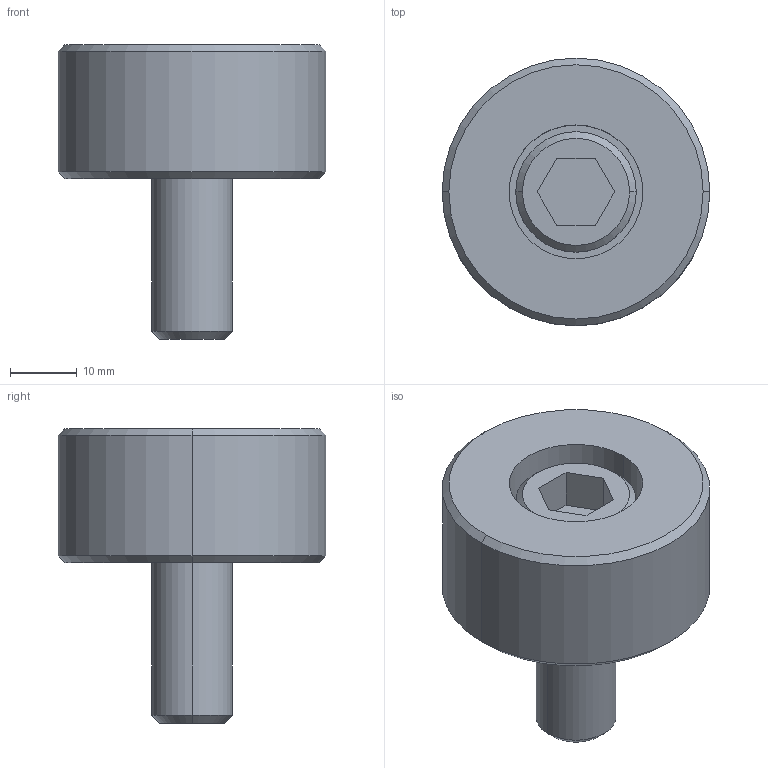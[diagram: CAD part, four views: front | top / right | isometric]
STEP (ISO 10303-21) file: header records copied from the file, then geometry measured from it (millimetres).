
FILE_DESCRIPTION((''),'2;1');
FILE_NAME('','2010-08-30T16:48:30+09:00',('misumi'),(''),'M/STEP i/f 1R2-14','CADmeister v5.1','');
FILE_SCHEMA(('AUTOMOTIVE_DESIGN'));
Length unit declared in the file: millimetre
Products named in the file (1): DEB40-20-R
Bounding box: 40 x 40 x 44 mm (x, y, z)
Volume: 25561.7 mm3; surface area: 8175.9 mm2
Topology: 2 solids, 2 shells, 31 faces, 64 edges, 40 vertices
Faces by surface type: plane 13, cylinder 10, cone 8
Entity records: 924 total; most frequent: DIRECTION 156, CARTESIAN_POINT 136, ORIENTED_EDGE 128, EDGE_CURVE 64, AXIS2_PLACEMENT_3D 60, VERTEX_POINT 40, LINE 36, VECTOR 36
